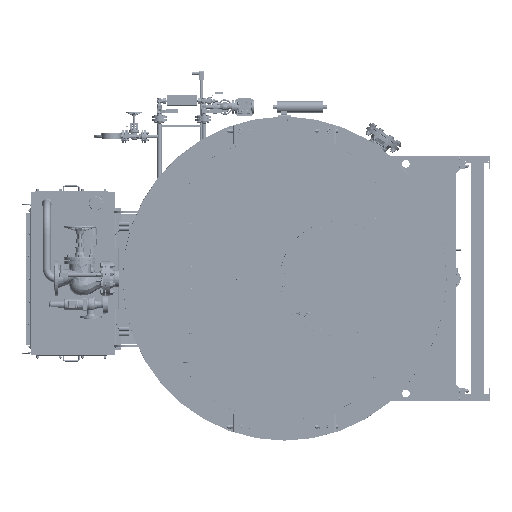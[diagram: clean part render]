
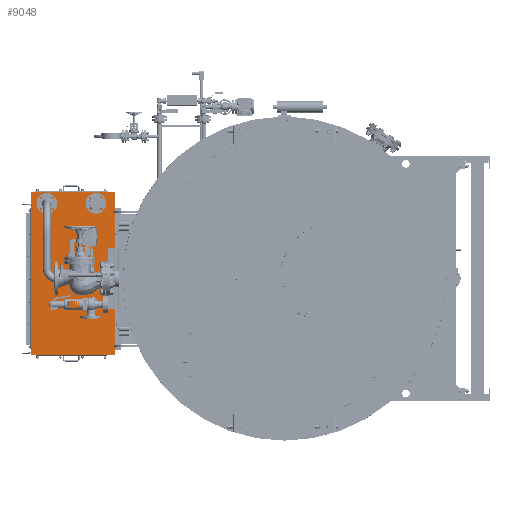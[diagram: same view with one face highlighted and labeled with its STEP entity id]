
A CAD part, left-side view. The second image highlights one B-rep face of the part: STEP entity #9048.
In plain terms, the highlighted planar face has unit normal (-1, 0, 0).
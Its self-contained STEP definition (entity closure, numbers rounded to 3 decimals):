
#9048=ADVANCED_FACE('',(#123132,#123134,#123136),#123138,.T.);
#123132=FACE_BOUND('',#123133,.T.);
#123133=EDGE_LOOP('',(#303648,#303649,#303650,#303651));
#123134=FACE_BOUND('',#123135,.T.);
#123135=EDGE_LOOP('',(#303652));
#123136=FACE_BOUND('',#123137,.T.);
#123137=EDGE_LOOP('',(#303653));
#123138=PLANE('',#123139);
#123139=AXIS2_PLACEMENT_3D('',#123140,#123141,#123142);
#123140=CARTESIAN_POINT('',(602.,1733.,548.5));
#123141=DIRECTION('',(-1.,0.,0.));
#123142=DIRECTION('',(0.,1.,0.));
#303648=ORIENTED_EDGE('',*,*,#380541,.T.);
#303649=ORIENTED_EDGE('',*,*,#380542,.T.);
#303650=ORIENTED_EDGE('',*,*,#379363,.F.);
#303651=ORIENTED_EDGE('',*,*,#380531,.F.);
#303652=ORIENTED_EDGE('',*,*,#380543,.T.);
#303653=ORIENTED_EDGE('',*,*,#380544,.T.);
#379363=EDGE_CURVE('',#418706,#418708,#418709,.T.);
#380531=EDGE_CURVE('',#420856,#418706,#420858,.T.);
#380541=EDGE_CURVE('',#420856,#420876,#420877,.T.);
#380542=EDGE_CURVE('',#420876,#418708,#420878,.T.);
#380543=EDGE_CURVE('',#420879,#420879,#420880,.F.);
#380544=EDGE_CURVE('',#420881,#420881,#420882,.T.);
#418706=VERTEX_POINT('',#482911);
#418708=VERTEX_POINT('',#482915);
#418709=LINE('',#482916,#482917);
#420856=VERTEX_POINT('',#488241);
#420858=LINE('',#488245,#488246);
#420876=VERTEX_POINT('',#488287);
#420877=LINE('',#488288,#488289);
#420878=LINE('',#488291,#488292);
#420879=VERTEX_POINT('',#488294);
#420880=CIRCLE('',#488295,28.5);
#420881=VERTEX_POINT('',#488299);
#420882=CIRCLE('',#488300,28.5);
#482911=CARTESIAN_POINT('',(602.,1728.,672.5));
#482915=CARTESIAN_POINT('',(602.,1728.,-592.5));
#482916=CARTESIAN_POINT('',(602.,1728.,672.5));
#482917=VECTOR('',#482918,1.);
#482918=DIRECTION('',(0.,0.,-1.));
#488241=CARTESIAN_POINT('',(602.,2376.,672.5));
#488245=CARTESIAN_POINT('',(602.,2376.,672.5));
#488246=VECTOR('',#488247,1.);
#488247=DIRECTION('',(0.,-1.,0.));
#488287=CARTESIAN_POINT('',(602.,2376.,-592.5));
#488288=CARTESIAN_POINT('',(602.,2376.,672.5));
#488289=VECTOR('',#488290,1.);
#488290=DIRECTION('',(0.,0.,-1.));
#488291=CARTESIAN_POINT('',(602.,2376.,-592.5));
#488292=VECTOR('',#488293,1.);
#488293=DIRECTION('',(0.,-1.,0.));
#488294=CARTESIAN_POINT('',(602.,2253.,612.5));
#488295=AXIS2_PLACEMENT_3D('',#488296,#488297,#488298);
#488296=CARTESIAN_POINT('',(602.,2253.,584.));
#488297=DIRECTION('',(-1.,0.,0.));
#488298=DIRECTION('',(0.,0.,1.));
#488299=CARTESIAN_POINT('',(602.,1873.,612.5));
#488300=AXIS2_PLACEMENT_3D('',#488301,#488302,#488303);
#488301=CARTESIAN_POINT('',(602.,1873.,584.));
#488302=DIRECTION('',(1.,0.,0.));
#488303=DIRECTION('',(0.,0.,1.));
